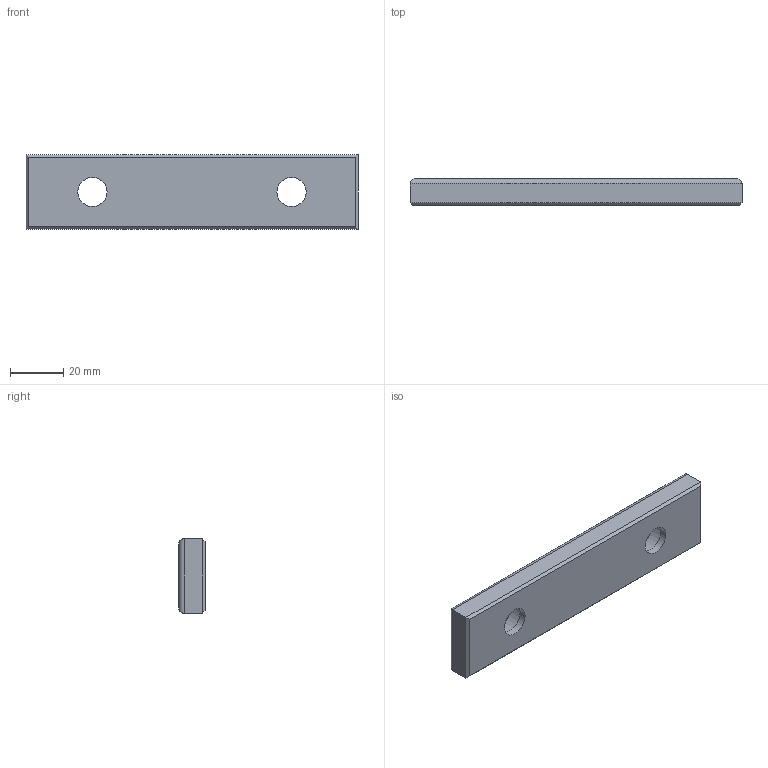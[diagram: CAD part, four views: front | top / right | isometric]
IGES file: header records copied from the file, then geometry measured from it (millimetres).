
Global section: file name: PG05.028125.ipt; native system: Autodesk Inventor 2021; preprocessor: unknown; author: SM; date: 20211217.171438; units: millimetre
Bounding box: 125 x 10 x 28 mm (x, y, z)
Volume: 30360.3 mm3; surface area: 10246.2 mm2
Topology: 1 solids, 1 shells, 20 faces, 44 edges, 28 vertices
Faces by surface type: plane 12, cylinder 4, revolution 4
